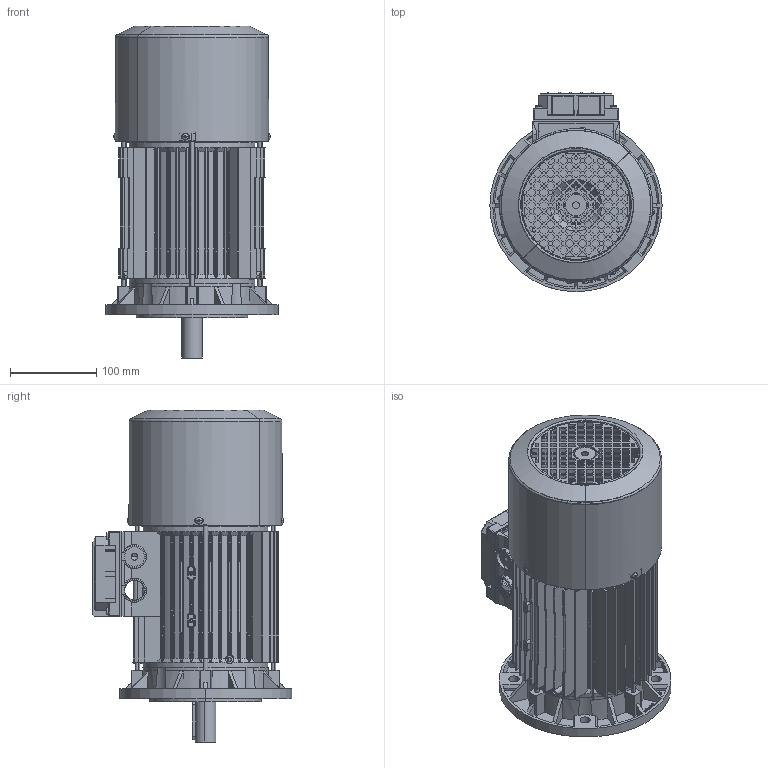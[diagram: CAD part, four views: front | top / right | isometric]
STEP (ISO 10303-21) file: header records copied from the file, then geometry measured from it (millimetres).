
FILE_DESCRIPTION (( 'STEP AP214' ), '1' );
FILE_NAME ('M14FB0014.STEP', '2019-09-18T12:12:47', ( '' ), ( '' ), 'SwSTEP 2.0', 'SolidWorks 2018', '' );
FILE_SCHEMA (( 'AUTOMOTIVE_DESIGN' ));
Length unit declared in the file: millimetre
Products named in the file (13): Cuffia BM 90- DDAS0197; Scudo Lato Freno BM 90 P1; Scudo a flangia B5 Fi 200 BA-BM 90 - DDAA00195; Carcassa 90 L B5; M14FB0014; Coperchio per Scatola Singola 90 - 100 - 112 con viti; Guarnizione Coperchio Semplice Scatola BA 90 100 112 - DDAL0094; Vite  a testa bombata M4x16; Coperchio per Scatola Singola 90 - 100 - 112; Vite testa rotonda M3; Tirante SM 90L; Chiavetta 90; Albero BM 90 L
Assembly tree (21 placements, depth 3):
  M14FB0014
    Carcassa 90 L B5
    Scudo a flangia B5 Fi 200 BA-BM 90 - DDAA00195
    Scudo Lato Freno BM 90 P1
    Cuffia BM 90- DDAS0197
    Albero BM 90 L
    Chiavetta 90
    Tirante SM 90L  x4
    Vite testa rotonda M3  x4
    Coperchio per Scatola Singola 90 - 100 - 112 con viti
      Coperchio per Scatola Singola 90 - 100 - 112
      Vite  a testa bombata M4x16  x4
      Guarnizione Coperchio Semplice Scatola BA 90 100 112 - DDAL0094
Bounding box: 200 x 231.5 x 385.5 mm (x, y, z)
Volume: 1393459.8 mm3; surface area: 820339.9 mm2
Topology: 24 solids, 24 shells, 3499 faces, 9530 edges, 6108 vertices
Faces by surface type: plane 1390, cylinder 1314, torus 302, cone 287, bspline 188, sphere 18
Entity records: 115882 total; most frequent: CARTESIAN_POINT 36541, ORIENTED_EDGE 17022, DIRECTION 15587, EDGE_CURVE 8511, AXIS2_PLACEMENT_3D 5689, VERTEX_POINT 5508, LINE 4209, VECTOR 4209
